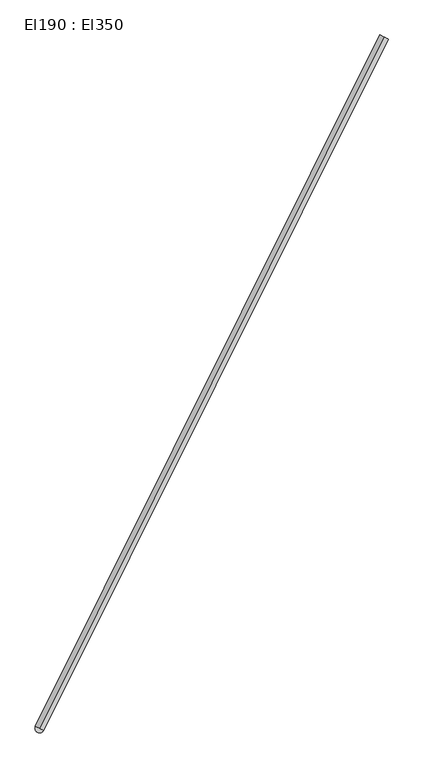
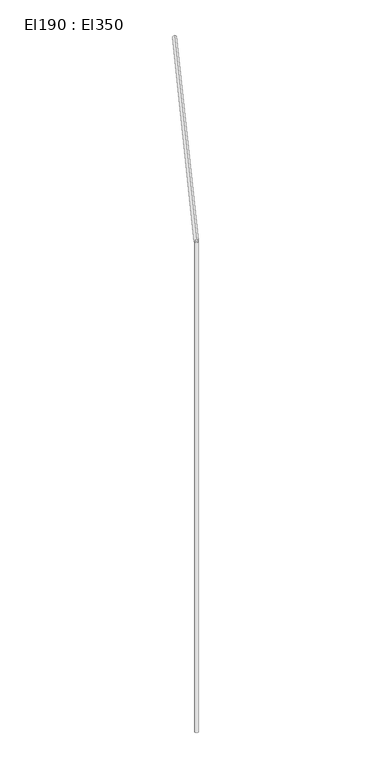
"""IFC4 building model written with IfcOpenShell, lengths in millimetres: cable carrier segment geometry, El190 : El350."""

from ifc_helpers import new_model, si_unit, point, frame, frame_2d, origin, place, context, project, spatial, circle_curve, trimmed, segment, composite_curve, outline, extrude, source, transform, mapped, element, save


def el190_el350_7b75cf25(model_context):
    return source(origin(), model_context, "Body", "SweptSolid", [
        extrude(outline(composite_curve([segment(trimmed(circle_curve(frame_2d((0.0, -9.5)), 9.5), [point((0.0, -19.0))], [point((0.0, 0.0))], False, "CARTESIAN"), True, "CONTINUOUS"), segment(trimmed(circle_curve(frame_2d((0.0, -9.5)), 9.5), [point((0.0, 0.0))], [point((0.0, -19.0))], False, "CARTESIAN"), True, "CONTINUOUS")], self_intersect=False)), frame((29797.2206511, 1716.0431745, 4459.5), z_axis=(0.44583026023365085, 0.8951175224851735, 0.0), x_axis=(-0.8951175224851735, 0.44583026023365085, 0.0)), (0.0, 0.0, 1.0), 1560.47),
        extrude(outline(composite_curve([segment(trimmed(circle_curve(frame_2d((29797.2206511, 1716.0431745)), 9.5), [point((29787.7206511, 1716.0431745))], [point((29806.7206511, 1716.0431745))], False, "CARTESIAN"), True, "CONTINUOUS"), segment(trimmed(circle_curve(frame_2d((29797.2206511, 1716.0431745)), 9.5), [point((29806.7206511, 1716.0431745))], [point((29787.7206511, 1716.0431745))], False, "CARTESIAN"), True, "CONTINUOUS")], self_intersect=False)), frame((0.0, 0.0, 1830.0), z_axis=(0.0, 0.0, 1.0), x_axis=(1.0, 0.0, 0.0)), (0.0, 0.0, 1.0), 2620.0),
    ])


if __name__ == "__main__":
    model = new_model("IFC4")
    model_context = context("Model", 3, world=origin())
    ifc_project = project(units=[si_unit("LENGTHUNIT", "METRE", prefix="MILLI")], contexts=[model_context])
    site = spatial("IfcSite", under=ifc_project)
    building = spatial("IfcBuilding", under=site)
    placement = place(None, origin())
    el190_el350_shape = el190_el350_7b75cf25(model_context)
    element("IfcCableCarrierSegment", 1, ObjectType="El190 : El350", at=placement, inside=building, context=model_context, shape_type="MappedRepresentation", body=[
        mapped(el190_el350_shape, transform((0.0, 0.0, 0.0), x_axis=(1.0, 0.0, 0.0), y_axis=(0.0, 1.0, 0.0), z_axis=(0.0, 0.0, 1.0))),
    ])
    save(model, "model.ifc")
